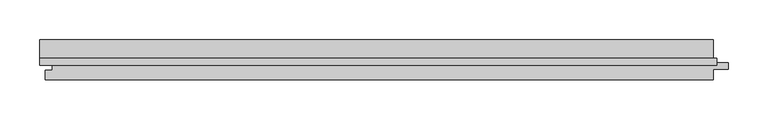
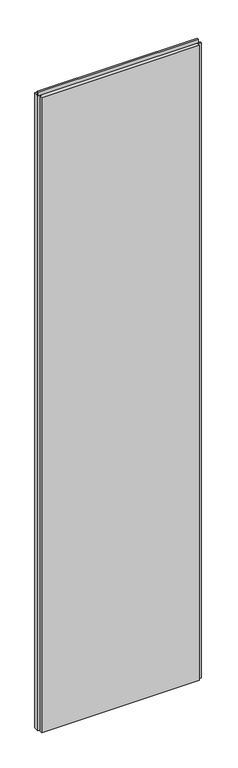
"""IFC4 building model written with IfcOpenShell, lengths in millimetres: plate geometry, Trimo_Qbiss Screen_Normal Panel-VERTICAL : HR - FB."""

from ifc_helpers import new_model, si_unit, frame, origin, place, context, project, spatial, polyline, outline, extrude, source, transform, mapped, element, save


def plate_911a777f(model_context):
    return source(origin(), model_context, "Body", "SweptSolid", [
        extrude(outline(polyline([(-425.0, 93.9), (-425.0, 102.6), (425.0, 102.6), (425.0, 93.9), (-425.0, 93.9)])), frame((0.0, 0.0, 3590.5), z_axis=(0.0, 0.0, 1.0), x_axis=(1.0, 0.0, 0.0)), (0.0, 0.0, 1.0), 19.0),
        extrude(outline(polyline([(421.0, 97.0), (439.5, 97.0), (439.5, 89.0), (421.0, 89.0), (421.0, 76.0), (-418.0, 76.0), (-418.0, 88.0), (-409.5, 88.0), (-409.5, 98.0), (-425.0, 98.0), (-425.0, 126.0), (421.0, 126.0), (421.0, 97.0)])), frame((0.0, 0.0, 12.5), z_axis=(0.0, 0.0, 1.0), x_axis=(1.0, 0.0, 0.0)), (0.0, 0.0, 1.0), 3575.0),
    ])


if __name__ == "__main__":
    model = new_model("IFC4")
    model_context = context("Model", 3, world=origin())
    ifc_project = project(units=[si_unit("LENGTHUNIT", "METRE", prefix="MILLI")], contexts=[model_context])
    site = spatial("IfcSite", under=ifc_project)
    building = spatial("IfcBuilding", under=site)
    placement = place(None, origin())
    plate_shape = plate_911a777f(model_context)
    element("IfcPlate", 1, ObjectType="Trimo_Qbiss Screen_Normal Panel-VERTICAL : HR - FB", at=placement, inside=building, context=model_context, shape_type="MappedRepresentation", body=[
        mapped(plate_shape, transform((0.0, 0.0, 0.0), x_axis=(1.0, 0.0, 0.0), y_axis=(0.0, 1.0, 0.0), z_axis=(0.0, 0.0, 1.0))),
    ])
    save(model, "model.ifc")
